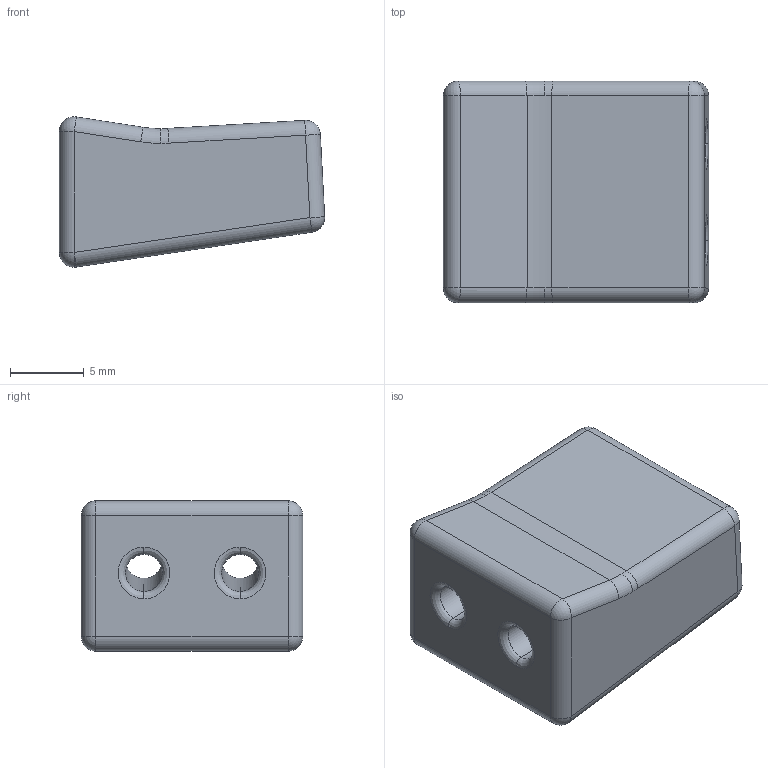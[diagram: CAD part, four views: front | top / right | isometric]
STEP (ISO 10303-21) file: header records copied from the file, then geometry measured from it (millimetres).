
FILE_DESCRIPTION (( 'STEP AP203' ), '1' );
FILE_NAME ('NUT.STEP', '2024-09-13T15:49:17', ( '' ), ( '' ), 'SwSTEP 2.0', 'SolidWorks 2022', '' );
FILE_SCHEMA (( 'CONFIG_CONTROL_DESIGN' ));
Length unit declared in the file: millimetre
Products named in the file (1): NUT
Bounding box: 17.95 x 15 x 10.18 mm (x, y, z)
Volume: 2077.4 mm3; surface area: 1290.7 mm2
Topology: 1 solids, 1 shells, 49 faces, 109 edges, 56 vertices
Faces by surface type: cylinder 20, sphere 10, torus 8, plane 7, bspline 4
Entity records: 1554 total; most frequent: CARTESIAN_POINT 441, DIRECTION 243, ORIENTED_EDGE 202, AXIS2_PLACEMENT_3D 104, EDGE_CURVE 101, CIRCLE 58, VERTEX_POINT 54, EDGE_LOOP 53
